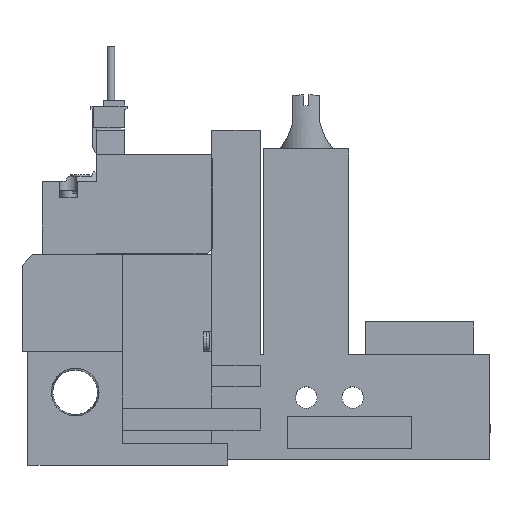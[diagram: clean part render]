
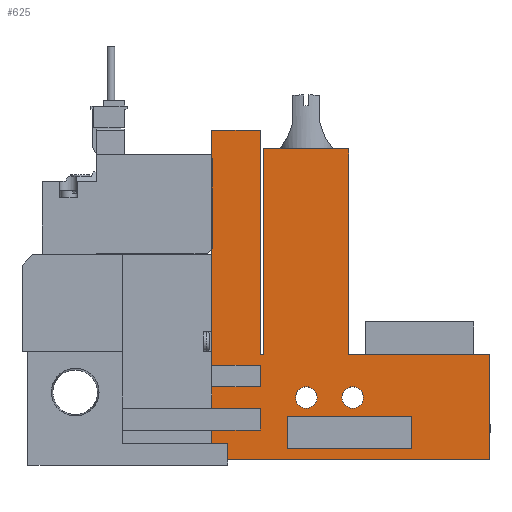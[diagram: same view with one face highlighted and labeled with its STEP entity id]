
A CAD part, top view. The second image highlights one B-rep face of the part: STEP entity #625.
In plain terms, the highlighted planar face has unit normal (0, 0, 1).
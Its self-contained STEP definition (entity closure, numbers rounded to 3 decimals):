
#625=ADVANCED_FACE('',(#1313,#1314,#1315,#1316),#1317,.T.);
#1313=FACE_OUTER_BOUND('',#2087,.T.);
#1314=FACE_BOUND('',#2088,.T.);
#1315=FACE_BOUND('',#2089,.T.);
#1316=FACE_BOUND('',#2090,.T.);
#1317=PLANE('',#2091);
#2087=EDGE_LOOP('',(#4673,#4674,#4675,#4676,#4677,#4678,#4679,#4680,#4681,#4682,#4683,#4684,#4685,#4686,#4687,#4688,#4689,#4690));
#2088=EDGE_LOOP('',(#4691,#4692,#4693,#4694));
#2089=EDGE_LOOP('',(#4695));
#2090=EDGE_LOOP('',(#4696));
#2091=AXIS2_PLACEMENT_3D('',#4697,#4698,#4699);
#4673=ORIENTED_EDGE('',*,*,#5820,.T.);
#4674=ORIENTED_EDGE('',*,*,#5775,.T.);
#4675=ORIENTED_EDGE('',*,*,#5720,.T.);
#4676=ORIENTED_EDGE('',*,*,#5697,.T.);
#4677=ORIENTED_EDGE('',*,*,#5857,.T.);
#4678=ORIENTED_EDGE('',*,*,#5800,.T.);
#4679=ORIENTED_EDGE('',*,*,#5751,.T.);
#4680=ORIENTED_EDGE('',*,*,#5768,.T.);
#4681=ORIENTED_EDGE('',*,*,#5767,.T.);
#4682=ORIENTED_EDGE('',*,*,#5756,.T.);
#4683=ORIENTED_EDGE('',*,*,#5858,.T.);
#4684=ORIENTED_EDGE('',*,*,#5852,.T.);
#4685=ORIENTED_EDGE('',*,*,#5849,.T.);
#4686=ORIENTED_EDGE('',*,*,#5715,.T.);
#4687=ORIENTED_EDGE('',*,*,#5712,.T.);
#4688=ORIENTED_EDGE('',*,*,#5838,.T.);
#4689=ORIENTED_EDGE('',*,*,#5745,.T.);
#4690=ORIENTED_EDGE('',*,*,#5701,.T.);
#4691=ORIENTED_EDGE('',*,*,#5670,.T.);
#4692=ORIENTED_EDGE('',*,*,#5772,.T.);
#4693=ORIENTED_EDGE('',*,*,#5841,.T.);
#4694=ORIENTED_EDGE('',*,*,#5859,.T.);
#4695=ORIENTED_EDGE('',*,*,#5655,.T.);
#4696=ORIENTED_EDGE('',*,*,#5653,.T.);
#4697=CARTESIAN_POINT('',(0.0,0.0,10.0));
#4698=DIRECTION('',(0.0,0.0,1.0));
#4699=DIRECTION('',(1.0,0.0,0.0));
#5653=EDGE_CURVE('',#6956,#6956,#6957,.T.);
#5655=EDGE_CURVE('',#6960,#6960,#6961,.T.);
#5670=EDGE_CURVE('',#6983,#6988,#6990,.T.);
#5697=EDGE_CURVE('',#7032,#7039,#7041,.T.);
#5701=EDGE_CURVE('',#7049,#7047,#7050,.T.);
#5712=EDGE_CURVE('',#7069,#7067,#7070,.T.);
#5715=EDGE_CURVE('',#7074,#7069,#7075,.T.);
#5720=EDGE_CURVE('',#7078,#7032,#7082,.T.);
#5745=EDGE_CURVE('',#7127,#7049,#7128,.T.);
#5751=EDGE_CURVE('',#7131,#7136,#7138,.T.);
#5756=EDGE_CURVE('',#7147,#7145,#7148,.T.);
#5767=EDGE_CURVE('',#7164,#7147,#7166,.T.);
#5768=EDGE_CURVE('',#7136,#7164,#7167,.T.);
#5772=EDGE_CURVE('',#6988,#7171,#7173,.T.);
#5775=EDGE_CURVE('',#7176,#7078,#7178,.T.);
#5800=EDGE_CURVE('',#7217,#7131,#7218,.T.);
#5820=EDGE_CURVE('',#7047,#7176,#7249,.T.);
#5838=EDGE_CURVE('',#7067,#7127,#7273,.T.);
#5841=EDGE_CURVE('',#7171,#7276,#7278,.T.);
#5849=EDGE_CURVE('',#7287,#7074,#7288,.T.);
#5852=EDGE_CURVE('',#7291,#7287,#7292,.T.);
#5857=EDGE_CURVE('',#7039,#7217,#7298,.T.);
#5858=EDGE_CURVE('',#7145,#7291,#7299,.T.);
#5859=EDGE_CURVE('',#7276,#6983,#7300,.T.);
#6956=VERTEX_POINT('',#9057);
#6957=CIRCLE('',#9058,2.0);
#6960=VERTEX_POINT('',#9061);
#6961=CIRCLE('',#9062,2.0);
#6983=VERTEX_POINT('',#9093);
#6988=VERTEX_POINT('',#9100);
#6990=LINE('',#9103,#9104);
#7032=VERTEX_POINT('',#9164);
#7039=VERTEX_POINT('',#9174);
#7041=LINE('',#9177,#9178);
#7047=VERTEX_POINT('',#9185);
#7049=VERTEX_POINT('',#9188);
#7050=LINE('',#9189,#9190);
#7067=VERTEX_POINT('',#9213);
#7069=VERTEX_POINT('',#9216);
#7070=LINE('',#9217,#9218);
#7074=VERTEX_POINT('',#9224);
#7075=LINE('',#9225,#9226);
#7078=VERTEX_POINT('',#9230);
#7082=LINE('',#9236,#9237);
#7127=VERTEX_POINT('',#9304);
#7128=LINE('',#9305,#9306);
#7131=VERTEX_POINT('',#9311);
#7136=VERTEX_POINT('',#9318);
#7138=LINE('',#9321,#9322);
#7145=VERTEX_POINT('',#9332);
#7147=VERTEX_POINT('',#9335);
#7148=LINE('',#9336,#9337);
#7164=VERTEX_POINT('',#9359);
#7166=LINE('',#9362,#9363);
#7167=LINE('',#9364,#9365);
#7171=VERTEX_POINT('',#9371);
#7173=LINE('',#9374,#9375);
#7176=VERTEX_POINT('',#9378);
#7178=LINE('',#9381,#9382);
#7217=VERTEX_POINT('',#9444);
#7218=LINE('',#9445,#9446);
#7249=LINE('',#9517,#9518);
#7273=LINE('',#9559,#9560);
#7276=VERTEX_POINT('',#9564);
#7278=LINE('',#9567,#9568);
#7287=VERTEX_POINT('',#9584);
#7288=LINE('',#9585,#9586);
#7291=VERTEX_POINT('',#9591);
#7292=LINE('',#9592,#9593);
#7298=LINE('',#9602,#9603);
#7299=LINE('',#9604,#9605);
#7300=LINE('',#9606,#9607);
#9057=CARTESIAN_POINT('',(63.2,11.5,10.0));
#9058=AXIS2_PLACEMENT_3D('',#10580,#10581,#10582);
#9061=CARTESIAN_POINT('',(54.6,11.5,10.0));
#9062=AXIS2_PLACEMENT_3D('',#10586,#10587,#10588);
#9093=CARTESIAN_POINT('',(49.1,2.0,10.0));
#9100=CARTESIAN_POINT('',(49.1,8.0,10.0));
#9103=CARTESIAN_POINT('',(49.1,0.0,10.0));
#9104=VECTOR('',#10607,1.0);
#9164=CARTESIAN_POINT('',(44.1,13.5,10.0));
#9174=CARTESIAN_POINT('',(35.1,13.5,10.0));
#9177=CARTESIAN_POINT('',(0.0,13.5,10.0));
#9178=VECTOR('',#10642,1.0);
#9185=CARTESIAN_POINT('',(35.1,61.0,10.0));
#9188=CARTESIAN_POINT('',(44.1,61.0,10.0));
#9189=CARTESIAN_POINT('',(44.1,61.0,10.0));
#9190=VECTOR('',#10648,1.0);
#9213=CARTESIAN_POINT('',(44.75,19.5,10.0));
#9216=CARTESIAN_POINT('',(44.75,57.5,10.0));
#9217=CARTESIAN_POINT('',(44.75,57.5,10.0));
#9218=VECTOR('',#10665,1.0);
#9224=CARTESIAN_POINT('',(60.45,57.5,10.0));
#9225=CARTESIAN_POINT('',(60.45,57.5,10.0));
#9226=VECTOR('',#10668,1.0);
#9230=CARTESIAN_POINT('',(44.1,17.5,10.0));
#9236=CARTESIAN_POINT('',(44.1,0.0,10.0));
#9237=VECTOR('',#10675,1.0);
#9304=CARTESIAN_POINT('',(44.1,19.5,10.0));
#9305=CARTESIAN_POINT('',(44.1,19.5,10.0));
#9306=VECTOR('',#10704,1.0);
#9311=CARTESIAN_POINT('',(44.1,9.5,10.0));
#9318=CARTESIAN_POINT('',(44.1,5.5,10.0));
#9321=CARTESIAN_POINT('',(44.1,0.0,10.0));
#9322=VECTOR('',#10710,1.0);
#9332=CARTESIAN_POINT('',(86.6,0.0,10.0));
#9335=CARTESIAN_POINT('',(35.1,0.0,10.0));
#9336=CARTESIAN_POINT('',(18.6,0.0,10.0));
#9337=VECTOR('',#10715,1.0);
#9359=CARTESIAN_POINT('',(35.1,5.5,10.0));
#9362=CARTESIAN_POINT('',(35.1,0.0,10.0));
#9363=VECTOR('',#10732,1.0);
#9364=CARTESIAN_POINT('',(0.0,5.5,10.0));
#9365=VECTOR('',#10733,1.0);
#9371=CARTESIAN_POINT('',(72.1,8.0,10.0));
#9374=CARTESIAN_POINT('',(0.0,8.0,10.0));
#9375=VECTOR('',#10737,1.0);
#9378=CARTESIAN_POINT('',(35.1,17.5,10.0));
#9381=CARTESIAN_POINT('',(0.0,17.5,10.0));
#9382=VECTOR('',#10742,1.0);
#9444=CARTESIAN_POINT('',(35.1,9.5,10.0));
#9445=CARTESIAN_POINT('',(0.0,9.5,10.0));
#9446=VECTOR('',#10769,1.0);
#9517=CARTESIAN_POINT('',(35.1,61.0,10.0));
#9518=VECTOR('',#10790,1.0);
#9559=CARTESIAN_POINT('',(44.75,19.5,10.0));
#9560=VECTOR('',#10808,1.0);
#9564=CARTESIAN_POINT('',(72.1,2.0,10.0));
#9567=CARTESIAN_POINT('',(72.1,0.0,10.0));
#9568=VECTOR('',#10811,1.0);
#9584=CARTESIAN_POINT('',(60.45,19.5,10.0));
#9585=CARTESIAN_POINT('',(60.45,19.5,10.0));
#9586=VECTOR('',#10819,1.0);
#9591=CARTESIAN_POINT('',(86.6,19.5,10.0));
#9592=CARTESIAN_POINT('',(86.6,19.5,10.0));
#9593=VECTOR('',#10822,1.0);
#9602=CARTESIAN_POINT('',(35.1,0.0,10.0));
#9603=VECTOR('',#10829,1.0);
#9604=CARTESIAN_POINT('',(86.6,0.0,10.0));
#9605=VECTOR('',#10830,1.0);
#9606=CARTESIAN_POINT('',(0.0,2.0,10.0));
#9607=VECTOR('',#10831,1.0);
#10580=CARTESIAN_POINT('',(61.2,11.5,10.0));
#10581=DIRECTION('',(0.0,0.0,-1.0));
#10582=DIRECTION('',(1.0,0.0,0.0));
#10586=CARTESIAN_POINT('',(52.6,11.5,10.0));
#10587=DIRECTION('',(0.0,0.0,-1.0));
#10588=DIRECTION('',(1.0,0.0,0.0));
#10607=DIRECTION('',(0.0,1.0,0.0));
#10642=DIRECTION('',(-1.0,0.0,0.0));
#10648=DIRECTION('',(-1.0,0.0,0.0));
#10665=DIRECTION('',(0.0,-1.0,0.0));
#10668=DIRECTION('',(-1.0,0.0,0.0));
#10675=DIRECTION('',(0.0,-1.0,0.0));
#10704=DIRECTION('',(0.0,1.0,0.0));
#10710=DIRECTION('',(0.0,-1.0,0.0));
#10715=DIRECTION('',(1.0,0.0,0.0));
#10732=DIRECTION('',(0.0,-1.0,0.0));
#10733=DIRECTION('',(-1.0,0.0,0.0));
#10737=DIRECTION('',(1.0,0.0,0.0));
#10742=DIRECTION('',(1.0,0.0,0.0));
#10769=DIRECTION('',(1.0,0.0,0.0));
#10790=DIRECTION('',(0.0,-1.0,0.0));
#10808=DIRECTION('',(-1.0,0.0,0.0));
#10811=DIRECTION('',(0.0,-1.0,0.0));
#10819=DIRECTION('',(0.0,1.0,0.0));
#10822=DIRECTION('',(-1.0,0.0,0.0));
#10829=DIRECTION('',(0.0,-1.0,0.0));
#10830=DIRECTION('',(0.0,1.0,0.0));
#10831=DIRECTION('',(-1.0,0.0,0.0));
